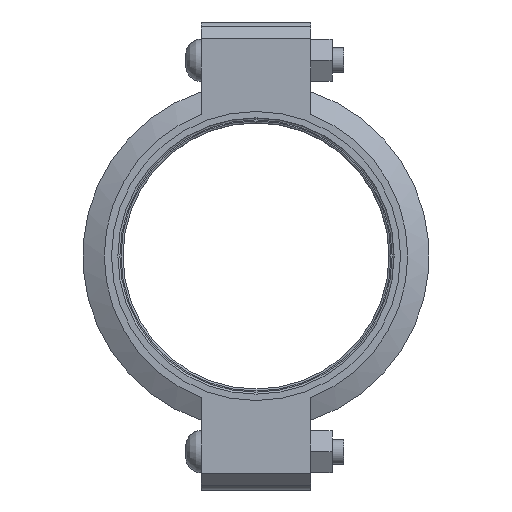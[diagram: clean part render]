
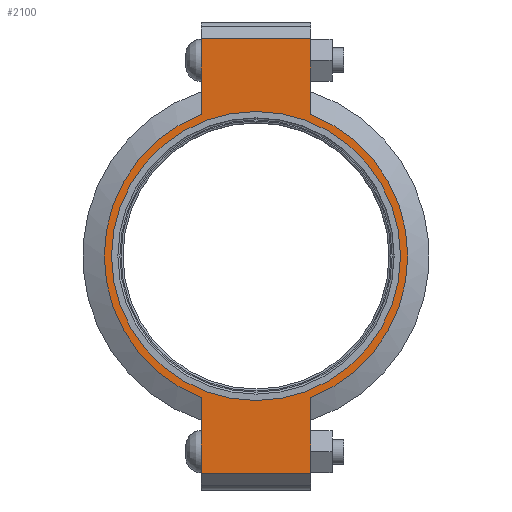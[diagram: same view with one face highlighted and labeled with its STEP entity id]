
A CAD part, left-side view. The second image highlights one B-rep face of the part: STEP entity #2100.
In plain terms, the highlighted planar face has unit normal (-1, 0, 0) as drawn and (0, 0, 1) by its records, which use the part's own axes.
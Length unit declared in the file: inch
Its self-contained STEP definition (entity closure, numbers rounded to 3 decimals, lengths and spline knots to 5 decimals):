
#206=LINE('',#3747,#305);
#214=LINE('',#3783,#313);
#221=LINE('',#3804,#320);
#230=LINE('',#3836,#329);
#231=LINE('',#3840,#330);
#232=LINE('',#3842,#331);
#305=VECTOR('',#3064,0.3937);
#313=VECTOR('',#3080,0.3937);
#320=VECTOR('',#3099,0.3937);
#329=VECTOR('',#3124,0.3937);
#330=VECTOR('',#3129,0.3937);
#331=VECTOR('',#3130,0.3937);
#392=FACE_BOUND('',#666,.T.);
#439=PLANE('',#2470);
#536=FACE_OUTER_BOUND('',#665,.T.);
#665=EDGE_LOOP('',(#1827,#1828,#1829,#1830,#1831,#1832,#1833,#1834));
#666=EDGE_LOOP('',(#1835));
#817=CIRCLE('',#2412,4.3125);
#843=CIRCLE('',#2471,4.53);
#844=CIRCLE('',#2472,4.53);
#972=VERTEX_POINT('',#3563);
#1015=VERTEX_POINT('',#3744);
#1016=VERTEX_POINT('',#3746);
#1027=VERTEX_POINT('',#3778);
#1028=VERTEX_POINT('',#3782);
#1035=VERTEX_POINT('',#3801);
#1036=VERTEX_POINT('',#3803);
#1046=VERTEX_POINT('',#3839);
#1047=VERTEX_POINT('',#3841);
#1213=EDGE_CURVE('',#972,#972,#817,.T.);
#1274=EDGE_CURVE('',#1016,#1015,#206,.T.);
#1288=EDGE_CURVE('',#1028,#1027,#214,.T.);
#1298=EDGE_CURVE('',#1036,#1035,#221,.T.);
#1313=EDGE_CURVE('',#1028,#1015,#230,.T.);
#1314=EDGE_CURVE('',#1027,#1036,#843,.T.);
#1315=EDGE_CURVE('',#1046,#1035,#231,.T.);
#1316=EDGE_CURVE('',#1046,#1047,#232,.T.);
#1317=EDGE_CURVE('',#1047,#1016,#844,.T.);
#1827=ORIENTED_EDGE('',*,*,#1313,.F.);
#1828=ORIENTED_EDGE('',*,*,#1288,.T.);
#1829=ORIENTED_EDGE('',*,*,#1314,.T.);
#1830=ORIENTED_EDGE('',*,*,#1298,.T.);
#1831=ORIENTED_EDGE('',*,*,#1315,.F.);
#1832=ORIENTED_EDGE('',*,*,#1316,.T.);
#1833=ORIENTED_EDGE('',*,*,#1317,.T.);
#1834=ORIENTED_EDGE('',*,*,#1274,.T.);
#1835=ORIENTED_EDGE('',*,*,#1213,.T.);
#2100=ADVANCED_FACE('',(#536,#392),#439,.T.);
#2412=AXIS2_PLACEMENT_3D('',#3565,#2940,#2941);
#2470=AXIS2_PLACEMENT_3D('',#3837,#3125,#3126);
#2471=AXIS2_PLACEMENT_3D('',#3838,#3127,#3128);
#2472=AXIS2_PLACEMENT_3D('',#3843,#3131,#3132);
#2940=DIRECTION('center_axis',(0.,0.,-1.));
#2941=DIRECTION('ref_axis',(1.,0.,0.));
#3064=DIRECTION('',(1.,0.,0.));
#3080=DIRECTION('',(-1.,0.,0.));
#3099=DIRECTION('',(-1.,0.,0.));
#3124=DIRECTION('',(0.,-1.,0.));
#3125=DIRECTION('center_axis',(0.,0.,1.));
#3126=DIRECTION('ref_axis',(-1.,0.,0.));
#3127=DIRECTION('center_axis',(0.,0.,1.));
#3128=DIRECTION('ref_axis',(1.,0.,0.));
#3129=DIRECTION('',(0.,1.,0.));
#3130=DIRECTION('',(1.,0.,0.));
#3131=DIRECTION('center_axis',(0.,0.,1.));
#3132=DIRECTION('ref_axis',(1.,0.,0.));
#3563=CARTESIAN_POINT('',(-4.3125,0.,1.16));
#3565=CARTESIAN_POINT('Origin',(0.,0.,1.16));
#3744=CARTESIAN_POINT('',(6.485,-1.63,1.16));
#3746=CARTESIAN_POINT('',(4.22658,-1.63,1.16));
#3747=CARTESIAN_POINT('',(6.985,-1.63,1.16));
#3778=CARTESIAN_POINT('',(4.22658,1.63,1.16));
#3782=CARTESIAN_POINT('',(6.485,1.63,1.16));
#3783=CARTESIAN_POINT('',(-6.985,1.63,1.16));
#3801=CARTESIAN_POINT('',(-6.485,1.63,1.16));
#3803=CARTESIAN_POINT('',(-4.22658,1.63,1.16));
#3804=CARTESIAN_POINT('',(-6.985,1.63,1.16));
#3836=CARTESIAN_POINT('',(6.485,-0.815,1.16));
#3837=CARTESIAN_POINT('Origin',(0.,0.,
1.16));
#3838=CARTESIAN_POINT('Origin',(0.,0.,1.16));
#3839=CARTESIAN_POINT('',(-6.485,-1.63,1.16));
#3840=CARTESIAN_POINT('',(-6.485,0.815,1.16));
#3841=CARTESIAN_POINT('',(-4.22658,-1.63,1.16));
#3842=CARTESIAN_POINT('',(6.985,-1.63,1.16));
#3843=CARTESIAN_POINT('Origin',(0.,0.,1.16));
